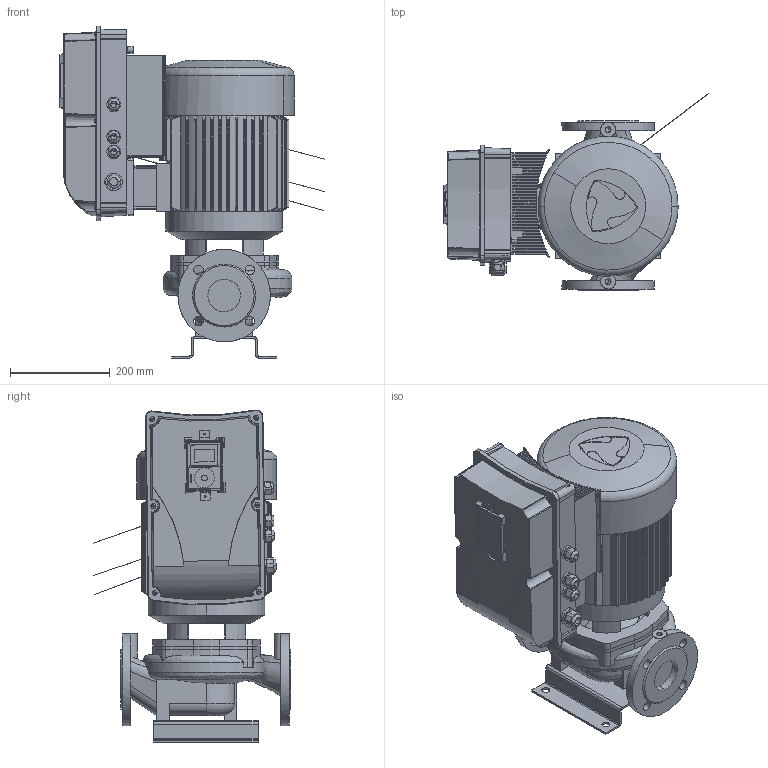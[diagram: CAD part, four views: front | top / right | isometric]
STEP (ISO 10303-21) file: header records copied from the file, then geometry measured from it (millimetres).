
FILE_DESCRIPTION(('STEP AP214'),'1');
FILE_NAME('export.stp','2018-06-01T13:12:21',(' '),(' '),'Spatial InterOp 3D',' ',' ');
FILE_SCHEMA(('AUTOMOTIVE_DESIGN { 1 0 10303 214 1 1 1 1 }'));
Length unit declared in the file: millimetre
Products named in the file (28): W_L65A4770_withou; V_TLL65AB80A1102; V_PPL65AB; V_JALKA35973; W_ALP10652750KPVS; V_MKP132_VS; RU_OKN_132; TSUOJA_OKN_132_133; Vacon_MS3; P101415; P101409; P101462; Piirilevyn_pala; A2004-2-4-LP-N-R; P101414; Vacon_Display; CAD-3D-VACON-M100-Display.sldasm; Vacon_display_pla; Vacon_display_scr; DIN_7985-M5x10; M20_tiivisteholkk; M25_tiivisteholkk; G43699; DIN_7985-M5x20; DIN_7985-M4x16; SOVITUSPALA; V_MKP-132-F19_VS; V_EKF19OKN132
Assembly tree (41 placements, depth 6):
  W_ALP10652750KPVS
    W_L65A4770_withou
      V_TLL65AB80A1102
      V_PPL65AB
      V_JALKA35973
    V_MKP-132-F19_VS
      V_MKP132_VS
        RU_OKN_132
        TSUOJA_OKN_132_133
        Vacon_MS3
          P101415
          P101409
          P101462
            Piirilevyn_pala
            A2004-2-4-LP-N-R  x2
          P101414
          Vacon_Display
            CAD-3D-VACON-M100-Display.sldasm
            Vacon_display_pla
            Vacon_display_scr
          DIN_7985-M5x10  x6
          M20_tiivisteholkk  x3
          M25_tiivisteholkk
          G43699  x2
          DIN_7985-M5x20  x6
          DIN_7985-M4x16
        SOVITUSPALA
      V_EKF19OKN132
Bounding box: 529.94 x 394.38 x 664.46 mm (x, y, z)
Volume: 26005421.5 mm3; surface area: 2964238.3 mm2
Topology: 34 solids, 1507 shells, 3955 faces, 14214 edges, 11825 vertices
Faces by surface type: bspline 1554, plane 1083, cylinder 835, cone 272, torus 168, sphere 43
Entity records: 187134 total; most frequent: CARTESIAN_POINT 71430, ORIENTED_EDGE 18484, EDGE_CURVE 13064, VERTEX_POINT 11137, DIRECTION 10687, B_SPLINE_CURVE_WITH_KNOTS 6950, STYLED_ITEM 4036, PRESENTATION_STYLE_ASSIGNMENT 4036
